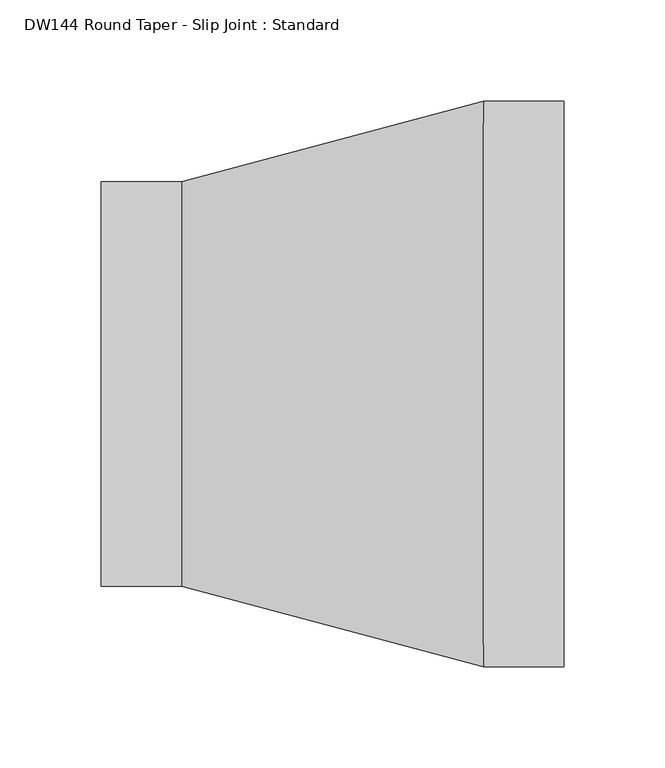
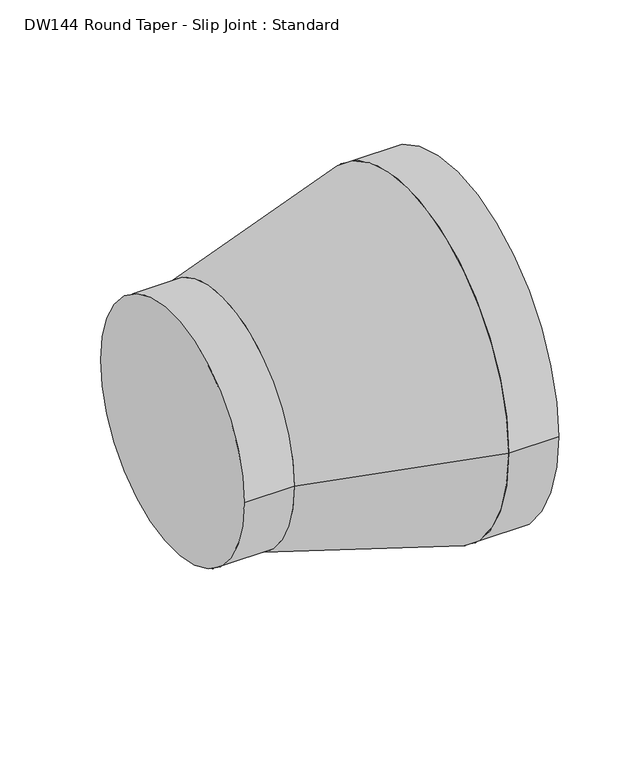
"""IFC4 building model written with IfcOpenShell, lengths in millimetres: duct fitting geometry, DW144 Round Taper - Slip Joint : Standard."""

from ifc_helpers import new_model, si_unit, point, frame, origin, origin_2d, place, context, project, spatial, polyline, circle_curve, trimmed, segment, composite_curve, outline, extrude, source, transform, mapped, element, save
from ifc_brep_helpers import plane_surface, revolved_surface, advanced_brep


def dw144_round_taper_slip_joint_standard_6ff5941c(model_context):
    return source(origin(), model_context, "Body", "SolidModel", [
        extrude(outline(composite_curve([segment(trimmed(circle_curve(origin_2d(), 140.0), [point((-140.0, 0.0))], [point((140.0, 0.0))], False, "CARTESIAN"), True, "CONTINUOUS"), segment(trimmed(circle_curve(origin_2d(), 140.0), [point((140.0, 0.0))], [point((-140.0, 0.0))], False, "CARTESIAN"), True, "CONTINUOUS")], self_intersect=False)), frame((189.2820323, 0.0, 0.0), z_axis=(1.0, 0.0, 0.0), x_axis=(0.0, 1.0, 0.0)), (0.0, 0.0, 1.0), 40.0),
        extrude(outline(composite_curve([segment(trimmed(circle_curve(origin_2d(), 100.0), [point((-100.0, 0.0))], [point((100.0, 0.0))], False, "CARTESIAN"), True, "CONTINUOUS"), segment(trimmed(circle_curve(origin_2d(), 100.0), [point((100.0, 0.0))], [point((-100.0, 0.0))], False, "CARTESIAN"), True, "CONTINUOUS")], self_intersect=False)), frame((0.0, 0.0, 0.0), z_axis=(1.0, 0.0, 0.0), x_axis=(0.0, 1.0, 0.0)), (0.0, 0.0, 1.0), 40.0),
        advanced_brep(
        [(189.2820323, -140.0, 0.0), (189.2820323, 140.0, 0.0), (40.0, -100.0, 0.0), (40.0, 100.0, 0.0)],
        [
            (0, 1, circle_curve(frame((189.2820323, 0.0, 0.0), z_axis=(1.0, 0.0, 0.0), x_axis=(0.0, -1.0, 0.0)), 140.0)),
            (1, 0, circle_curve(frame((189.2820323, 0.0, 0.0), z_axis=(1.0, 0.0, 0.0), x_axis=(0.0, 1.0, 0.0)), 140.0)),
            (2, 3, circle_curve(frame((40.0, 0.0, 0.0), z_axis=(-1.0, 0.0, 0.0), x_axis=(0.0, 1.0, 0.0)), 100.0)),
            (3, 2, circle_curve(frame((40.0, 0.0, 0.0), z_axis=(-1.0, 0.0, 0.0), x_axis=(0.0, -1.0, 0.0)), 100.0)),
            (3, 1),
            (0, 2),
        ],
        [
            plane_surface(frame((189.2820323, 0.0, 0.0), z_axis=(1.0, 0.0, 0.0), x_axis=(0.0, 0.0, -1.0))),
            plane_surface(frame((40.0, 0.0, 0.0), z_axis=(-1.0, 0.0, 0.0), x_axis=(0.0, 0.0, -1.0))),
            revolved_surface(polyline([(40.0, 100.00000000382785, 0.0), (189.28203229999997, 140.0, 0.0)]), (-333.2050808, 0.0, 0.0), (1.0, 0.0, 0.0)),
            revolved_surface(polyline([(40.0, -100.00000000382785, 0.0), (189.28203229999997, -140.0, 0.0)]), (-333.2050808, 0.0, 0.0), (1.0, 0.0, 0.0)),
        ],
        [
            (0, [[1, 2]]),
            (1, [[3, 4]]),
            (2, [[-4, 5, -1, 6]]),
            (3, [[-3, -6, -2, -5]]),
        ],
    ),
    ])


if __name__ == "__main__":
    model = new_model("IFC4")
    model_context = context("Model", 3, world=origin())
    ifc_project = project(units=[si_unit("LENGTHUNIT", "METRE", prefix="MILLI")], contexts=[model_context])
    site = spatial("IfcSite", under=ifc_project)
    building = spatial("IfcBuilding", under=site)
    placement = place(None, origin())
    dw144_round_taper_slip_joint_standard_shape = dw144_round_taper_slip_joint_standard_6ff5941c(model_context)
    element("IfcDuctFitting", 1, ObjectType="DW144 Round Taper - Slip Joint : Standard", at=placement, inside=building, context=model_context, shape_type="MappedRepresentation", body=[
        mapped(dw144_round_taper_slip_joint_standard_shape, transform((0.0, 0.0, 0.0), x_axis=(1.0, 0.0, 0.0), y_axis=(0.0, 1.0, 0.0), z_axis=(0.0, 0.0, 1.0))),
    ])
    save(model, "model.ifc")
